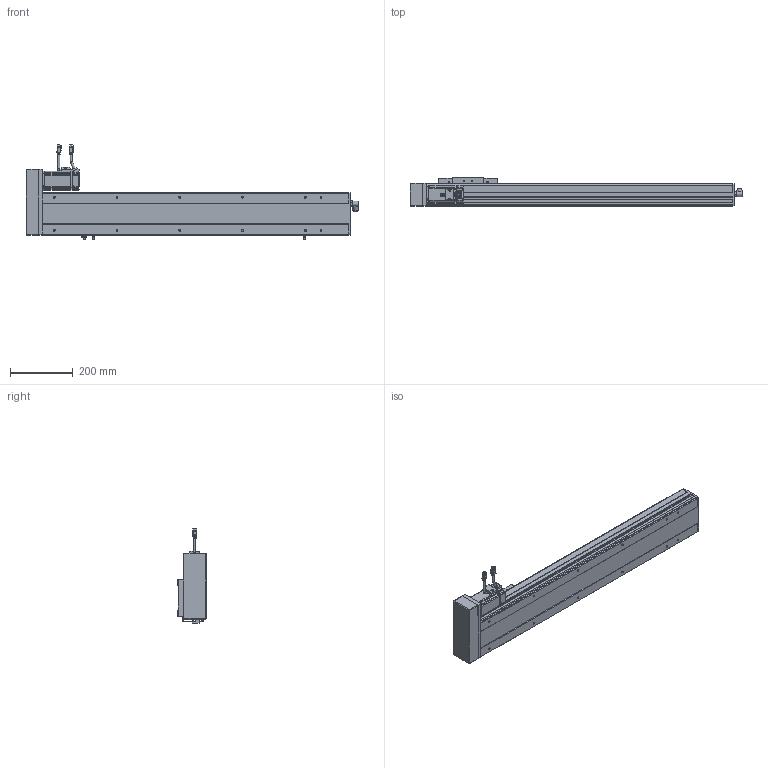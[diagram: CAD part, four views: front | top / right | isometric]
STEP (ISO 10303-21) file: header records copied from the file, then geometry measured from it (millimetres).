
FILE_DESCRIPTION(/* description */ ('STEP AP214'),/* implementation_level */ '2;1');
FILE_NAME(/* name */ 'PSC140-L05-S700-BL-P40-C1-N(0)',/* time_stamp */ '2022-06-13T03:28:08+02:00',/* author */ ('License CC BY-ND 4.0'),/* organization */ ('CADENAS'),/* preprocessor_version */ 'ST-DEVELOPER v18.102',/* originating_system */ 'PARTsolutions',/* authorisation */ ' ');
FILE_SCHEMA (('AUTOMOTIVE_DESIGN {1 0 10303 214 3 1 1}'));
Length unit declared in the file: millimetre
Products named in the file (11): PSC140-L05-S700-BL-P40-C1-N(0); P40-s2; P40-c2; P40-s1; P40-c1; P40-p1; PSC140-BL-body2; PSC140-sensor; PSC140-BL-SLIDER; PSC140-S700-BL-P40-C1_BODY1; PSC140-L05-S700-BL-P40-C1-N(0)_dummy
Assembly tree (12 placements, depth 2):
  PSC140-L05-S700-BL-P40-C1-N(0)
    P40-s2
    P40-c2
    P40-s1
    P40-c1
    P40-p1
    PSC140-BL-body2
    PSC140-sensor  x3
    PSC140-BL-SLIDER
    PSC140-S700-BL-P40-C1_BODY1
    PSC140-L05-S700-BL-P40-C1-N(0)_dummy
Bounding box: 1058 x 91 x 300.88 mm (x, y, z)
Volume: 10868413.2 mm3; surface area: 650088.2 mm2
Topology: 11 solids, 11 shells, 1231 faces, 3179 edges, 2103 vertices
Faces by surface type: plane 858, cylinder 314, cone 40, torus 19
Full cylindrical faces by diameter (mm): 1 x8, 2.6 x10, 2.8 x3, 3.3 x8, 4.5 x12, 4.6 x3, 4.917 x16, 5 x4, 5.5 x8, 6 x10, 7 x10, 9 x2, 10 x1, 11 x1, 12 x1, 13.74 x1, 14 x1, 16.4 x2, 16.5 x1, 36 x1, 50 x2
Entity records: 34086 total; most frequent: CARTESIAN_POINT 5953, DIRECTION 5731, ORIENTED_EDGE 5534, EDGE_CURVE 2767, LINE 2097, VECTOR 2097, VERTEX_POINT 1924, AXIS2_PLACEMENT_3D 1817
